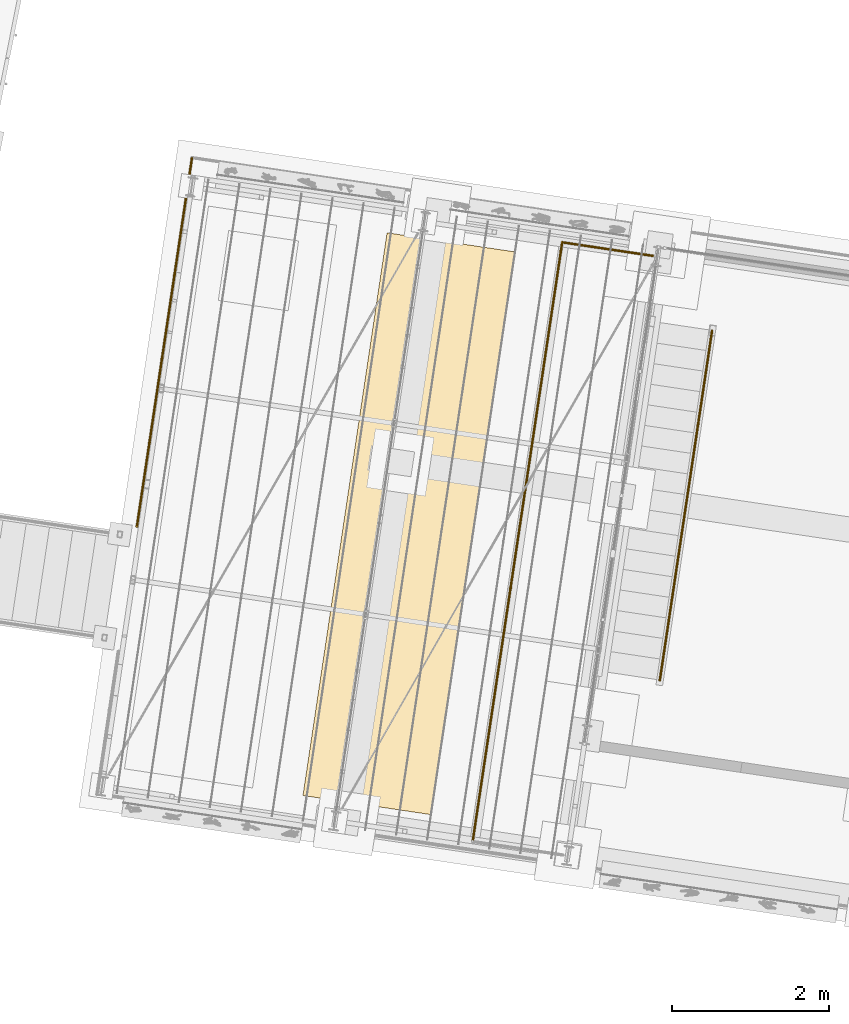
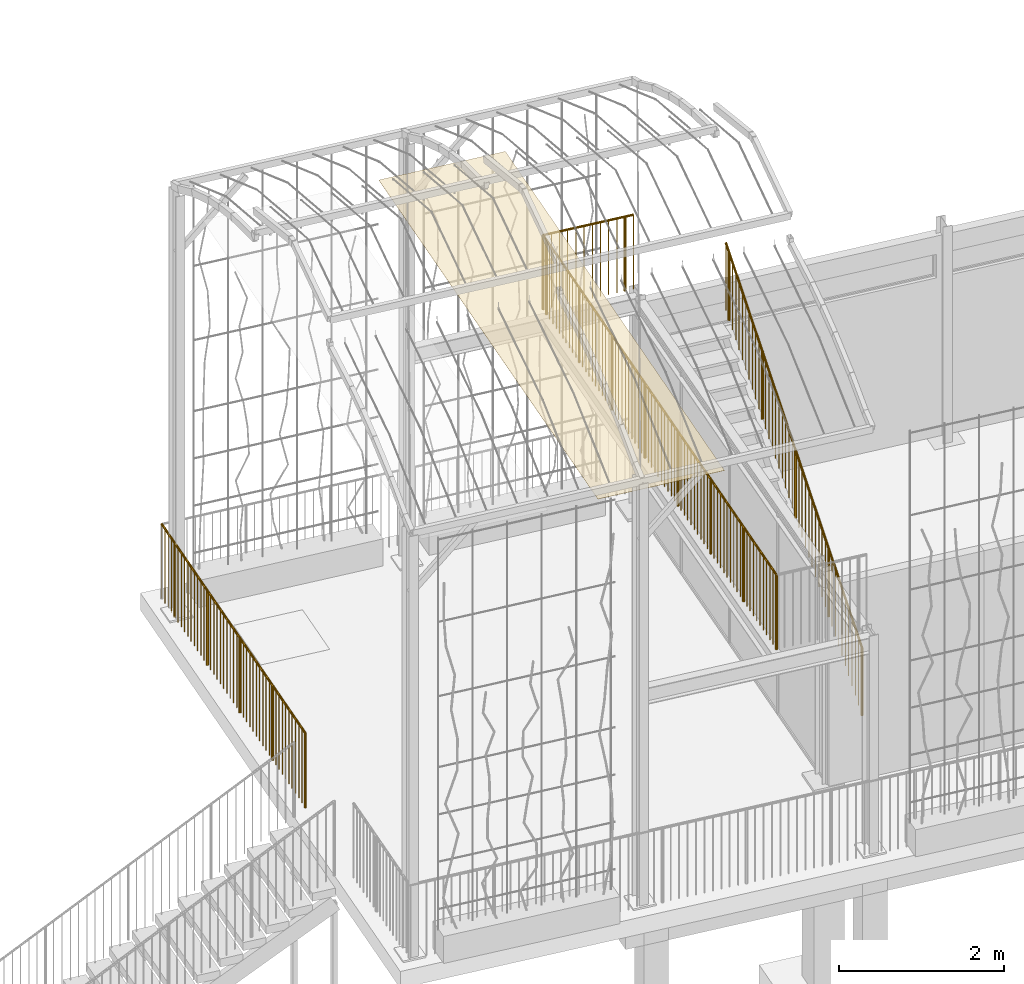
# One storey, part 139 of 143: 4 railings, 1 covering, 3 elements without a shape of their own.
"""IFC4 building model written with IfcOpenShell, lengths in metres."""

from ifc_helpers import new_model, si_unit, direction, frame, origin_with_axes, place, context, subcontext, project, spatial, polyline, circle, outline, extrude, material, element, aggregate, save


model = new_model("IFC4")

# Units and contexts
model_context = context("Model", 3, precision=1e-05, world=origin_with_axes(), true_north=direction((0.0, 1.0)))
body_context = subcontext(model_context, "Body", "Model", "MODEL_VIEW")
ifc_project = project(units=[si_unit("VOLUMEUNIT", "CUBIC_METRE"), si_unit("LENGTHUNIT", "METRE"), si_unit("AREAUNIT", "SQUARE_METRE")], contexts=[model_context])

# Site, building, storey
site_placement = place(None, origin_with_axes())
site = spatial("IfcSite", under=ifc_project, at=site_placement, Name="Lares · Rua das Mercês · artigo 4771")
building_placement = place(site_placement, frame((15.0, 9.7, 15.8), z_axis=(0.0, 0.0, 1.0), x_axis=(0.989015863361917, -0.147809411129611, 0.0)))
building = spatial("IfcBuilding", under=site, at=building_placement, Name="Casa Sobreposta")
storey_placement = place(building_placement, origin_with_axes())
storey = spatial("IfcBuildingStorey", under=building, at=storey_placement, Name="00 · Habitação e estacionamento", Elevation=15.8)

# Stair, railing
stair_placement = place(storey_placement, origin_with_axes())
stair = element("IfcStair", 1, at=stair_placement, inside=storey, Name="Escada sala", PredefinedType="STRAIGHT_RUN_STAIR")
ifc_material_1 = material(Name="Aço pintado / Stahl lackiert", Category="steel")
railing_1_placement = place(stair_placement, origin_with_axes())
railing_1 = element("IfcRailing", 2, at=railing_1_placement, material=ifc_material_1, Name="Corrimão sala", PredefinedType="GUARDRAIL", context=body_context, shape_type="SweptSolid", body=[
    extrude(circle(Radius=0.015), frame((0.83, 0.9475, 1.18), z_axis=(0.0, 0.827216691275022, 0.561883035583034), x_axis=(1.0, 0.0, 0.0)), (0.0, 0.0, 1.0), 5.44597328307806),
    extrude(circle(Radius=0.0175), frame((0.83, 0.9475, 0.18), z_axis=(0.0, 0.0, 1.0), x_axis=(1.0, 0.0, 0.0)), (0.0, 0.0, 1.0), 1.0),
    extrude(circle(Radius=0.006), frame((0.83, 1.05737804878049, 0.254634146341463), z_axis=(0.0, 0.0, 1.0), x_axis=(1.0, 0.0, 0.0)), (0.0, 0.0, 1.0), 1.0),
    extrude(circle(Radius=0.006), frame((0.83, 1.16725609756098, 0.329268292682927), z_axis=(0.0, 0.0, 1.0), x_axis=(1.0, 0.0, 0.0)), (0.0, 0.0, 1.0), 1.0),
    extrude(circle(Radius=0.006), frame((0.83, 1.27713414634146, 0.40390243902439), z_axis=(0.0, 0.0, 1.0), x_axis=(1.0, 0.0, 0.0)), (0.0, 0.0, 1.0), 1.0),
    extrude(circle(Radius=0.006), frame((0.83, 1.38701219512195, 0.478536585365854), z_axis=(0.0, 0.0, 1.0), x_axis=(1.0, 0.0, 0.0)), (0.0, 0.0, 1.0), 1.0),
    extrude(circle(Radius=0.006), frame((0.83, 1.49689024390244, 0.553170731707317), z_axis=(0.0, 0.0, 1.0), x_axis=(1.0, 0.0, 0.0)), (0.0, 0.0, 1.0), 1.0),
    extrude(circle(Radius=0.006), frame((0.83, 1.60676829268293, 0.62780487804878), z_axis=(0.0, 0.0, 1.0), x_axis=(1.0, 0.0, 0.0)), (0.0, 0.0, 1.0), 1.0),
    extrude(circle(Radius=0.006), frame((0.83, 1.71664634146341, 0.702439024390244), z_axis=(0.0, 0.0, 1.0), x_axis=(1.0, 0.0, 0.0)), (0.0, 0.0, 1.0), 1.0),
    extrude(circle(Radius=0.006), frame((0.83, 1.8265243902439, 0.777073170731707), z_axis=(0.0, 0.0, 1.0), x_axis=(1.0, 0.0, 0.0)), (0.0, 0.0, 1.0), 1.0),
    extrude(circle(Radius=0.006), frame((0.83, 1.93640243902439, 0.851707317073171), z_axis=(0.0, 0.0, 1.0), x_axis=(1.0, 0.0, 0.0)), (0.0, 0.0, 1.0), 1.0),
    extrude(circle(Radius=0.0175), frame((0.83, 2.04628048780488, 0.926341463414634), z_axis=(0.0, 0.0, 1.0), x_axis=(1.0, 0.0, 0.0)), (0.0, 0.0, 1.0), 1.0),
    extrude(circle(Radius=0.006), frame((0.83, 2.15615853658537, 1.0009756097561), z_axis=(0.0, 0.0, 1.0), x_axis=(1.0, 0.0, 0.0)), (0.0, 0.0, 1.0), 1.0),
    extrude(circle(Radius=0.006), frame((0.83, 2.26603658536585, 1.07560975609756), z_axis=(0.0, 0.0, 1.0), x_axis=(1.0, 0.0, 0.0)), (0.0, 0.0, 1.0), 1.0),
    extrude(circle(Radius=0.006), frame((0.83, 2.37591463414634, 1.15024390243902), z_axis=(0.0, 0.0, 1.0), x_axis=(1.0, 0.0, 0.0)), (0.0, 0.0, 1.0), 1.0),
    extrude(circle(Radius=0.006), frame((0.83, 2.48579268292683, 1.22487804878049), z_axis=(0.0, 0.0, 1.0), x_axis=(1.0, 0.0, 0.0)), (0.0, 0.0, 1.0), 1.0),
    extrude(circle(Radius=0.006), frame((0.83, 2.59567073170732, 1.29951219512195), z_axis=(0.0, 0.0, 1.0), x_axis=(1.0, 0.0, 0.0)), (0.0, 0.0, 1.0), 1.0),
    extrude(circle(Radius=0.006), frame((0.83, 2.7055487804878, 1.37414634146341), z_axis=(0.0, 0.0, 1.0), x_axis=(1.0, 0.0, 0.0)), (0.0, 0.0, 1.0), 1.0),
    extrude(circle(Radius=0.006), frame((0.83, 2.81542682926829, 1.44878048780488), z_axis=(0.0, 0.0, 1.0), x_axis=(1.0, 0.0, 0.0)), (0.0, 0.0, 1.0), 1.0),
    extrude(circle(Radius=0.006), frame((0.83, 2.92530487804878, 1.52341463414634), z_axis=(0.0, 0.0, 1.0), x_axis=(1.0, 0.0, 0.0)), (0.0, 0.0, 1.0), 1.0),
    extrude(circle(Radius=0.006), frame((0.83, 3.03518292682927, 1.5980487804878), z_axis=(0.0, 0.0, 1.0), x_axis=(1.0, 0.0, 0.0)), (0.0, 0.0, 1.0), 1.0),
    extrude(circle(Radius=0.0175), frame((0.83, 3.14506097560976, 1.67268292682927), z_axis=(0.0, 0.0, 1.0), x_axis=(1.0, 0.0, 0.0)), (0.0, 0.0, 1.0), 1.0),
    extrude(circle(Radius=0.006), frame((0.83, 3.25493902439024, 1.74731707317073), z_axis=(0.0, 0.0, 1.0), x_axis=(1.0, 0.0, 0.0)), (0.0, 0.0, 1.0), 1.0),
    extrude(circle(Radius=0.006), frame((0.83, 3.36481707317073, 1.8219512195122), z_axis=(0.0, 0.0, 1.0), x_axis=(1.0, 0.0, 0.0)), (0.0, 0.0, 1.0), 1.0),
    extrude(circle(Radius=0.006), frame((0.83, 3.47469512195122, 1.89658536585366), z_axis=(0.0, 0.0, 1.0), x_axis=(1.0, 0.0, 0.0)), (0.0, 0.0, 1.0), 1.0),
    extrude(circle(Radius=0.006), frame((0.83, 3.58457317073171, 1.97121951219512), z_axis=(0.0, 0.0, 1.0), x_axis=(1.0, 0.0, 0.0)), (0.0, 0.0, 1.0), 1.0),
    extrude(circle(Radius=0.006), frame((0.83, 3.6944512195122, 2.04585365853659), z_axis=(0.0, 0.0, 1.0), x_axis=(1.0, 0.0, 0.0)), (0.0, 0.0, 1.0), 1.0),
    extrude(circle(Radius=0.006), frame((0.83, 3.80432926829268, 2.12048780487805), z_axis=(0.0, 0.0, 1.0), x_axis=(1.0, 0.0, 0.0)), (0.0, 0.0, 1.0), 1.0),
    extrude(circle(Radius=0.006), frame((0.83, 3.91420731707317, 2.19512195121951), z_axis=(0.0, 0.0, 1.0), x_axis=(1.0, 0.0, 0.0)), (0.0, 0.0, 1.0), 1.0),
    extrude(circle(Radius=0.006), frame((0.83, 4.02408536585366, 2.26975609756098), z_axis=(0.0, 0.0, 1.0), x_axis=(1.0, 0.0, 0.0)), (0.0, 0.0, 1.0), 1.0),
    extrude(circle(Radius=0.006), frame((0.83, 4.13396341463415, 2.34439024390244), z_axis=(0.0, 0.0, 1.0), x_axis=(1.0, 0.0, 0.0)), (0.0, 0.0, 1.0), 1.0),
    extrude(circle(Radius=0.0175), frame((0.83, 4.24384146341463, 2.4190243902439), z_axis=(0.0, 0.0, 1.0), x_axis=(1.0, 0.0, 0.0)), (0.0, 0.0, 1.0), 1.0),
    extrude(circle(Radius=0.006), frame((0.83, 4.35371951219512, 2.49365853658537), z_axis=(0.0, 0.0, 1.0), x_axis=(1.0, 0.0, 0.0)), (0.0, 0.0, 1.0), 1.0),
    extrude(circle(Radius=0.006), frame((0.83, 4.46359756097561, 2.56829268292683), z_axis=(0.0, 0.0, 1.0), x_axis=(1.0, 0.0, 0.0)), (0.0, 0.0, 1.0), 1.0),
    extrude(circle(Radius=0.006), frame((0.83, 4.5734756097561, 2.64292682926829), z_axis=(0.0, 0.0, 1.0), x_axis=(1.0, 0.0, 0.0)), (0.0, 0.0, 1.0), 1.0),
    extrude(circle(Radius=0.006), frame((0.83, 4.68335365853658, 2.71756097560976), z_axis=(0.0, 0.0, 1.0), x_axis=(1.0, 0.0, 0.0)), (0.0, 0.0, 1.0), 1.0),
    extrude(circle(Radius=0.006), frame((0.83, 4.79323170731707, 2.79219512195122), z_axis=(0.0, 0.0, 1.0), x_axis=(1.0, 0.0, 0.0)), (0.0, 0.0, 1.0), 1.0),
    extrude(circle(Radius=0.006), frame((0.83, 4.90310975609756, 2.86682926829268), z_axis=(0.0, 0.0, 1.0), x_axis=(1.0, 0.0, 0.0)), (0.0, 0.0, 1.0), 1.0),
    extrude(circle(Radius=0.006), frame((0.83, 5.01298780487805, 2.94146341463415), z_axis=(0.0, 0.0, 1.0), x_axis=(1.0, 0.0, 0.0)), (0.0, 0.0, 1.0), 1.0),
    extrude(circle(Radius=0.006), frame((0.83, 5.12286585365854, 3.01609756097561), z_axis=(0.0, 0.0, 1.0), x_axis=(1.0, 0.0, 0.0)), (0.0, 0.0, 1.0), 1.0),
    extrude(circle(Radius=0.006), frame((0.83, 5.23274390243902, 3.09073170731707), z_axis=(0.0, 0.0, 1.0), x_axis=(1.0, 0.0, 0.0)), (0.0, 0.0, 1.0), 1.0),
    extrude(circle(Radius=0.0175), frame((0.83, 5.34262195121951, 3.16536585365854), z_axis=(0.0, 0.0, 1.0), x_axis=(1.0, 0.0, 0.0)), (0.0, 0.0, 1.0), 1.0),
    extrude(circle(Radius=0.006), frame((0.83, 5.4525, 3.24), z_axis=(0.0, 0.0, 1.0), x_axis=(1.0, 0.0, 0.0)), (0.0, 0.0, 1.0), 1.0),
])
aggregate(stair, [railing_1])

# Assembly, railing
assembly_1_placement = place(storey_placement, origin_with_axes())
assembly_1 = element("IfcElementAssembly", 3, at=assembly_1_placement, inside=storey, Name="Pódio · terraço, casa térrea e cisterna", ObjectType="CISTERN_PODIUM", PredefinedType="USERDEFINED")
railing_2_placement = place(assembly_1_placement, origin_with_axes())
railing_2 = element("IfcRailing", 4, at=railing_2_placement, material=ifc_material_1, Name="Pódio · guarda poente norte", PredefinedType="GUARDRAIL", context=body_context, shape_type="SweptSolid", body=[
    extrude(circle(Radius=0.015), frame((-6.05, 1.9, 1.06), z_axis=(0.0, 1.0, 0.0), x_axis=(1.0, 0.0, 0.0)), (0.0, 0.0, 1.0), 4.75),
    extrude(circle(Radius=0.0175), frame((-6.05, 1.9, -0.04), z_axis=(0.0, 0.0, 1.0), x_axis=(1.0, 0.0, 0.0)), (0.0, 0.0, 1.0), 1.1),
    extrude(circle(Radius=0.006), frame((-6.05, 2.00795454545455, -0.04), z_axis=(0.0, 0.0, 1.0), x_axis=(1.0, 0.0, 0.0)), (0.0, 0.0, 1.0), 1.1),
    extrude(circle(Radius=0.006), frame((-6.05, 2.11590909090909, -0.04), z_axis=(0.0, 0.0, 1.0), x_axis=(1.0, 0.0, 0.0)), (0.0, 0.0, 1.0), 1.1),
    extrude(circle(Radius=0.006), frame((-6.05, 2.22386363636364, -0.04), z_axis=(0.0, 0.0, 1.0), x_axis=(1.0, 0.0, 0.0)), (0.0, 0.0, 1.0), 1.1),
    extrude(circle(Radius=0.006), frame((-6.05, 2.33181818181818, -0.04), z_axis=(0.0, 0.0, 1.0), x_axis=(1.0, 0.0, 0.0)), (0.0, 0.0, 1.0), 1.1),
    extrude(circle(Radius=0.006), frame((-6.05, 2.43977272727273, -0.04), z_axis=(0.0, 0.0, 1.0), x_axis=(1.0, 0.0, 0.0)), (0.0, 0.0, 1.0), 1.1),
    extrude(circle(Radius=0.006), frame((-6.05, 2.54772727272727, -0.04), z_axis=(0.0, 0.0, 1.0), x_axis=(1.0, 0.0, 0.0)), (0.0, 0.0, 1.0), 1.1),
    extrude(circle(Radius=0.006), frame((-6.05, 2.65568181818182, -0.04), z_axis=(0.0, 0.0, 1.0), x_axis=(1.0, 0.0, 0.0)), (0.0, 0.0, 1.0), 1.1),
    extrude(circle(Radius=0.006), frame((-6.05, 2.76363636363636, -0.04), z_axis=(0.0, 0.0, 1.0), x_axis=(1.0, 0.0, 0.0)), (0.0, 0.0, 1.0), 1.1),
    extrude(circle(Radius=0.006), frame((-6.05, 2.87159090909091, -0.04), z_axis=(0.0, 0.0, 1.0), x_axis=(1.0, 0.0, 0.0)), (0.0, 0.0, 1.0), 1.1),
    extrude(circle(Radius=0.0175), frame((-6.05, 2.97954545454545, -0.04), z_axis=(0.0, 0.0, 1.0), x_axis=(1.0, 0.0, 0.0)), (0.0, 0.0, 1.0), 1.1),
    extrude(circle(Radius=0.006), frame((-6.05, 3.0875, -0.04), z_axis=(0.0, 0.0, 1.0), x_axis=(1.0, 0.0, 0.0)), (0.0, 0.0, 1.0), 1.1),
    extrude(circle(Radius=0.006), frame((-6.05, 3.19545454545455, -0.04), z_axis=(0.0, 0.0, 1.0), x_axis=(1.0, 0.0, 0.0)), (0.0, 0.0, 1.0), 1.1),
    extrude(circle(Radius=0.006), frame((-6.05, 3.30340909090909, -0.04), z_axis=(0.0, 0.0, 1.0), x_axis=(1.0, 0.0, 0.0)), (0.0, 0.0, 1.0), 1.1),
    extrude(circle(Radius=0.006), frame((-6.05, 3.41136363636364, -0.04), z_axis=(0.0, 0.0, 1.0), x_axis=(1.0, 0.0, 0.0)), (0.0, 0.0, 1.0), 1.1),
    extrude(circle(Radius=0.006), frame((-6.05, 3.51931818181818, -0.04), z_axis=(0.0, 0.0, 1.0), x_axis=(1.0, 0.0, 0.0)), (0.0, 0.0, 1.0), 1.1),
    extrude(circle(Radius=0.006), frame((-6.05, 3.62727272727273, -0.04), z_axis=(0.0, 0.0, 1.0), x_axis=(1.0, 0.0, 0.0)), (0.0, 0.0, 1.0), 1.1),
    extrude(circle(Radius=0.006), frame((-6.05, 3.73522727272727, -0.04), z_axis=(0.0, 0.0, 1.0), x_axis=(1.0, 0.0, 0.0)), (0.0, 0.0, 1.0), 1.1),
    extrude(circle(Radius=0.006), frame((-6.05, 3.84318181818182, -0.04), z_axis=(0.0, 0.0, 1.0), x_axis=(1.0, 0.0, 0.0)), (0.0, 0.0, 1.0), 1.1),
    extrude(circle(Radius=0.006), frame((-6.05, 3.95113636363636, -0.04), z_axis=(0.0, 0.0, 1.0), x_axis=(1.0, 0.0, 0.0)), (0.0, 0.0, 1.0), 1.1),
    extrude(circle(Radius=0.0175), frame((-6.05, 4.05909090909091, -0.04), z_axis=(0.0, 0.0, 1.0), x_axis=(1.0, 0.0, 0.0)), (0.0, 0.0, 1.0), 1.1),
    extrude(circle(Radius=0.006), frame((-6.05, 4.16704545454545, -0.04), z_axis=(0.0, 0.0, 1.0), x_axis=(1.0, 0.0, 0.0)), (0.0, 0.0, 1.0), 1.1),
    extrude(circle(Radius=0.006), frame((-6.05, 4.275, -0.04), z_axis=(0.0, 0.0, 1.0), x_axis=(1.0, 0.0, 0.0)), (0.0, 0.0, 1.0), 1.1),
    extrude(circle(Radius=0.006), frame((-6.05, 4.38295454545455, -0.04), z_axis=(0.0, 0.0, 1.0), x_axis=(1.0, 0.0, 0.0)), (0.0, 0.0, 1.0), 1.1),
    extrude(circle(Radius=0.006), frame((-6.05, 4.49090909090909, -0.04), z_axis=(0.0, 0.0, 1.0), x_axis=(1.0, 0.0, 0.0)), (0.0, 0.0, 1.0), 1.1),
    extrude(circle(Radius=0.006), frame((-6.05, 4.59886363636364, -0.04), z_axis=(0.0, 0.0, 1.0), x_axis=(1.0, 0.0, 0.0)), (0.0, 0.0, 1.0), 1.1),
    extrude(circle(Radius=0.006), frame((-6.05, 4.70681818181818, -0.04), z_axis=(0.0, 0.0, 1.0), x_axis=(1.0, 0.0, 0.0)), (0.0, 0.0, 1.0), 1.1),
    extrude(circle(Radius=0.006), frame((-6.05, 4.81477272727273, -0.04), z_axis=(0.0, 0.0, 1.0), x_axis=(1.0, 0.0, 0.0)), (0.0, 0.0, 1.0), 1.1),
    extrude(circle(Radius=0.006), frame((-6.05, 4.92272727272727, -0.04), z_axis=(0.0, 0.0, 1.0), x_axis=(1.0, 0.0, 0.0)), (0.0, 0.0, 1.0), 1.1),
    extrude(circle(Radius=0.006), frame((-6.05, 5.03068181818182, -0.04), z_axis=(0.0, 0.0, 1.0), x_axis=(1.0, 0.0, 0.0)), (0.0, 0.0, 1.0), 1.1),
    extrude(circle(Radius=0.0175), frame((-6.05, 5.13863636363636, -0.04), z_axis=(0.0, 0.0, 1.0), x_axis=(1.0, 0.0, 0.0)), (0.0, 0.0, 1.0), 1.1),
    extrude(circle(Radius=0.006), frame((-6.05, 5.24659090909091, -0.04), z_axis=(0.0, 0.0, 1.0), x_axis=(1.0, 0.0, 0.0)), (0.0, 0.0, 1.0), 1.1),
    extrude(circle(Radius=0.006), frame((-6.05, 5.35454545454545, -0.04), z_axis=(0.0, 0.0, 1.0), x_axis=(1.0, 0.0, 0.0)), (0.0, 0.0, 1.0), 1.1),
    extrude(circle(Radius=0.006), frame((-6.05, 5.4625, -0.04), z_axis=(0.0, 0.0, 1.0), x_axis=(1.0, 0.0, 0.0)), (0.0, 0.0, 1.0), 1.1),
    extrude(circle(Radius=0.006), frame((-6.05, 5.57045454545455, -0.04), z_axis=(0.0, 0.0, 1.0), x_axis=(1.0, 0.0, 0.0)), (0.0, 0.0, 1.0), 1.1),
    extrude(circle(Radius=0.006), frame((-6.05, 5.67840909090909, -0.04), z_axis=(0.0, 0.0, 1.0), x_axis=(1.0, 0.0, 0.0)), (0.0, 0.0, 1.0), 1.1),
    extrude(circle(Radius=0.006), frame((-6.05, 5.78636363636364, -0.04), z_axis=(0.0, 0.0, 1.0), x_axis=(1.0, 0.0, 0.0)), (0.0, 0.0, 1.0), 1.1),
    extrude(circle(Radius=0.006), frame((-6.05, 5.89431818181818, -0.04), z_axis=(0.0, 0.0, 1.0), x_axis=(1.0, 0.0, 0.0)), (0.0, 0.0, 1.0), 1.1),
    extrude(circle(Radius=0.006), frame((-6.05, 6.00227272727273, -0.04), z_axis=(0.0, 0.0, 1.0), x_axis=(1.0, 0.0, 0.0)), (0.0, 0.0, 1.0), 1.1),
    extrude(circle(Radius=0.006), frame((-6.05, 6.11022727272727, -0.04), z_axis=(0.0, 0.0, 1.0), x_axis=(1.0, 0.0, 0.0)), (0.0, 0.0, 1.0), 1.1),
    extrude(circle(Radius=0.0175), frame((-6.05, 6.21818181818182, -0.04), z_axis=(0.0, 0.0, 1.0), x_axis=(1.0, 0.0, 0.0)), (0.0, 0.0, 1.0), 1.1),
    extrude(circle(Radius=0.006), frame((-6.05, 6.32613636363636, -0.04), z_axis=(0.0, 0.0, 1.0), x_axis=(1.0, 0.0, 0.0)), (0.0, 0.0, 1.0), 1.1),
    extrude(circle(Radius=0.006), frame((-6.05, 6.43409090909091, -0.04), z_axis=(0.0, 0.0, 1.0), x_axis=(1.0, 0.0, 0.0)), (0.0, 0.0, 1.0), 1.1),
    extrude(circle(Radius=0.006), frame((-6.05, 6.54204545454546, -0.04), z_axis=(0.0, 0.0, 1.0), x_axis=(1.0, 0.0, 0.0)), (0.0, 0.0, 1.0), 1.1),
    extrude(circle(Radius=0.006), frame((-6.05, 6.65, -0.04), z_axis=(0.0, 0.0, 1.0), x_axis=(1.0, 0.0, 0.0)), (0.0, 0.0, 1.0), 1.1),
])
aggregate(assembly_1, [railing_2])

# Assembly, railings, covering
assembly_2_placement = place(storey_placement, origin_with_axes())
assembly_2 = element("IfcElementAssembly", 5, at=assembly_2_placement, inside=storey, Name="Pérgola · prolongamento da estufa 6 m", ObjectType="PERGOLA_GREENHOUSE_EXTENSION", PredefinedType="USERDEFINED")
railing_3_placement = place(assembly_2_placement, origin_with_axes())
railing_3 = element("IfcRailing", 6, at=railing_3_placement, material=ifc_material_1, Name="Varanda · guarda", PredefinedType="GUARDRAIL", context=body_context, shape_type="SweptSolid", body=[
    extrude(circle(Radius=0.015), frame((-1.225, -1.44, 4.34), z_axis=(0.0, 1.0, 0.0), x_axis=(1.0, 0.0, 0.0)), (0.0, 0.0, 1.0), 7.72),
    extrude(circle(Radius=0.0175), frame((-1.225, -1.44, 3.24), z_axis=(0.0, 0.0, 1.0), x_axis=(1.0, 0.0, 0.0)), (0.0, 0.0, 1.0), 1.1),
    extrude(circle(Radius=0.006), frame((-1.225, -1.3312676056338, 3.24), z_axis=(0.0, 0.0, 1.0), x_axis=(1.0, 0.0, 0.0)), (0.0, 0.0, 1.0), 1.1),
    extrude(circle(Radius=0.006), frame((-1.225, -1.22253521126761, 3.24), z_axis=(0.0, 0.0, 1.0), x_axis=(1.0, 0.0, 0.0)), (0.0, 0.0, 1.0), 1.1),
    extrude(circle(Radius=0.006), frame((-1.225, -1.11380281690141, 3.24), z_axis=(0.0, 0.0, 1.0), x_axis=(1.0, 0.0, 0.0)), (0.0, 0.0, 1.0), 1.1),
    extrude(circle(Radius=0.006), frame((-1.225, -1.00507042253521, 3.24), z_axis=(0.0, 0.0, 1.0), x_axis=(1.0, 0.0, 0.0)), (0.0, 0.0, 1.0), 1.1),
    extrude(circle(Radius=0.006), frame((-1.225, -0.896338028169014, 3.24), z_axis=(0.0, 0.0, 1.0), x_axis=(1.0, 0.0, 0.0)), (0.0, 0.0, 1.0), 1.1),
    extrude(circle(Radius=0.006), frame((-1.225, -0.787605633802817, 3.24), z_axis=(0.0, 0.0, 1.0), x_axis=(1.0, 0.0, 0.0)), (0.0, 0.0, 1.0), 1.1),
    extrude(circle(Radius=0.006), frame((-1.225, -0.67887323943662, 3.24), z_axis=(0.0, 0.0, 1.0), x_axis=(1.0, 0.0, 0.0)), (0.0, 0.0, 1.0), 1.1),
    extrude(circle(Radius=0.006), frame((-1.225, -0.570140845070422, 3.24), z_axis=(0.0, 0.0, 1.0), x_axis=(1.0, 0.0, 0.0)), (0.0, 0.0, 1.0), 1.1),
    extrude(circle(Radius=0.006), frame((-1.225, -0.461408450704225, 3.24), z_axis=(0.0, 0.0, 1.0), x_axis=(1.0, 0.0, 0.0)), (0.0, 0.0, 1.0), 1.1),
    extrude(circle(Radius=0.0175), frame((-1.225, -0.352676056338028, 3.24), z_axis=(0.0, 0.0, 1.0), x_axis=(1.0, 0.0, 0.0)), (0.0, 0.0, 1.0), 1.1),
    extrude(circle(Radius=0.006), frame((-1.225, -0.243943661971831, 3.24), z_axis=(0.0, 0.0, 1.0), x_axis=(1.0, 0.0, 0.0)), (0.0, 0.0, 1.0), 1.1),
    extrude(circle(Radius=0.006), frame((-1.225, -0.135211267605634, 3.24), z_axis=(0.0, 0.0, 1.0), x_axis=(1.0, 0.0, 0.0)), (0.0, 0.0, 1.0), 1.1),
    extrude(circle(Radius=0.006), frame((-1.225, -0.0264788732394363, 3.24), z_axis=(0.0, 0.0, 1.0), x_axis=(1.0, 0.0, 0.0)), (0.0, 0.0, 1.0), 1.1),
    extrude(circle(Radius=0.006), frame((-1.225, 0.0822535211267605, 3.24), z_axis=(0.0, 0.0, 1.0), x_axis=(1.0, 0.0, 0.0)), (0.0, 0.0, 1.0), 1.1),
    extrude(circle(Radius=0.006), frame((-1.225, 0.190985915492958, 3.24), z_axis=(0.0, 0.0, 1.0), x_axis=(1.0, 0.0, 0.0)), (0.0, 0.0, 1.0), 1.1),
    extrude(circle(Radius=0.006), frame((-1.225, 0.299718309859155, 3.24), z_axis=(0.0, 0.0, 1.0), x_axis=(1.0, 0.0, 0.0)), (0.0, 0.0, 1.0), 1.1),
    extrude(circle(Radius=0.006), frame((-1.225, 0.408450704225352, 3.24), z_axis=(0.0, 0.0, 1.0), x_axis=(1.0, 0.0, 0.0)), (0.0, 0.0, 1.0), 1.1),
    extrude(circle(Radius=0.006), frame((-1.225, 0.51718309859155, 3.24), z_axis=(0.0, 0.0, 1.0), x_axis=(1.0, 0.0, 0.0)), (0.0, 0.0, 1.0), 1.1),
    extrude(circle(Radius=0.006), frame((-1.225, 0.625915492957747, 3.24), z_axis=(0.0, 0.0, 1.0), x_axis=(1.0, 0.0, 0.0)), (0.0, 0.0, 1.0), 1.1),
    extrude(circle(Radius=0.0175), frame((-1.225, 0.734647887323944, 3.24), z_axis=(0.0, 0.0, 1.0), x_axis=(1.0, 0.0, 0.0)), (0.0, 0.0, 1.0), 1.1),
    extrude(circle(Radius=0.006), frame((-1.225, 0.843380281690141, 3.24), z_axis=(0.0, 0.0, 1.0), x_axis=(1.0, 0.0, 0.0)), (0.0, 0.0, 1.0), 1.1),
    extrude(circle(Radius=0.006), frame((-1.225, 0.952112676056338, 3.24), z_axis=(0.0, 0.0, 1.0), x_axis=(1.0, 0.0, 0.0)), (0.0, 0.0, 1.0), 1.1),
    extrude(circle(Radius=0.006), frame((-1.225, 1.06084507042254, 3.24), z_axis=(0.0, 0.0, 1.0), x_axis=(1.0, 0.0, 0.0)), (0.0, 0.0, 1.0), 1.1),
    extrude(circle(Radius=0.006), frame((-1.225, 1.16957746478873, 3.24), z_axis=(0.0, 0.0, 1.0), x_axis=(1.0, 0.0, 0.0)), (0.0, 0.0, 1.0), 1.1),
    extrude(circle(Radius=0.006), frame((-1.225, 1.27830985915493, 3.24), z_axis=(0.0, 0.0, 1.0), x_axis=(1.0, 0.0, 0.0)), (0.0, 0.0, 1.0), 1.1),
    extrude(circle(Radius=0.006), frame((-1.225, 1.38704225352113, 3.24), z_axis=(0.0, 0.0, 1.0), x_axis=(1.0, 0.0, 0.0)), (0.0, 0.0, 1.0), 1.1),
    extrude(circle(Radius=0.006), frame((-1.225, 1.49577464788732, 3.24), z_axis=(0.0, 0.0, 1.0), x_axis=(1.0, 0.0, 0.0)), (0.0, 0.0, 1.0), 1.1),
    extrude(circle(Radius=0.006), frame((-1.225, 1.60450704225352, 3.24), z_axis=(0.0, 0.0, 1.0), x_axis=(1.0, 0.0, 0.0)), (0.0, 0.0, 1.0), 1.1),
    extrude(circle(Radius=0.006), frame((-1.225, 1.71323943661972, 3.24), z_axis=(0.0, 0.0, 1.0), x_axis=(1.0, 0.0, 0.0)), (0.0, 0.0, 1.0), 1.1),
    extrude(circle(Radius=0.0175), frame((-1.225, 1.82197183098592, 3.24), z_axis=(0.0, 0.0, 1.0), x_axis=(1.0, 0.0, 0.0)), (0.0, 0.0, 1.0), 1.1),
    extrude(circle(Radius=0.006), frame((-1.225, 1.93070422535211, 3.24), z_axis=(0.0, 0.0, 1.0), x_axis=(1.0, 0.0, 0.0)), (0.0, 0.0, 1.0), 1.1),
    extrude(circle(Radius=0.006), frame((-1.225, 2.03943661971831, 3.24), z_axis=(0.0, 0.0, 1.0), x_axis=(1.0, 0.0, 0.0)), (0.0, 0.0, 1.0), 1.1),
    extrude(circle(Radius=0.006), frame((-1.225, 2.14816901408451, 3.24), z_axis=(0.0, 0.0, 1.0), x_axis=(1.0, 0.0, 0.0)), (0.0, 0.0, 1.0), 1.1),
    extrude(circle(Radius=0.006), frame((-1.225, 2.2569014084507, 3.24), z_axis=(0.0, 0.0, 1.0), x_axis=(1.0, 0.0, 0.0)), (0.0, 0.0, 1.0), 1.1),
    extrude(circle(Radius=0.006), frame((-1.225, 2.3656338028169, 3.24), z_axis=(0.0, 0.0, 1.0), x_axis=(1.0, 0.0, 0.0)), (0.0, 0.0, 1.0), 1.1),
    extrude(circle(Radius=0.006), frame((-1.225, 2.4743661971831, 3.24), z_axis=(0.0, 0.0, 1.0), x_axis=(1.0, 0.0, 0.0)), (0.0, 0.0, 1.0), 1.1),
    extrude(circle(Radius=0.006), frame((-1.225, 2.5830985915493, 3.24), z_axis=(0.0, 0.0, 1.0), x_axis=(1.0, 0.0, 0.0)), (0.0, 0.0, 1.0), 1.1),
    extrude(circle(Radius=0.006), frame((-1.225, 2.69183098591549, 3.24), z_axis=(0.0, 0.0, 1.0), x_axis=(1.0, 0.0, 0.0)), (0.0, 0.0, 1.0), 1.1),
    extrude(circle(Radius=0.006), frame((-1.225, 2.80056338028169, 3.24), z_axis=(0.0, 0.0, 1.0), x_axis=(1.0, 0.0, 0.0)), (0.0, 0.0, 1.0), 1.1),
    extrude(circle(Radius=0.0175), frame((-1.225, 2.90929577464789, 3.24), z_axis=(0.0, 0.0, 1.0), x_axis=(1.0, 0.0, 0.0)), (0.0, 0.0, 1.0), 1.1),
    extrude(circle(Radius=0.006), frame((-1.225, 3.01802816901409, 3.24), z_axis=(0.0, 0.0, 1.0), x_axis=(1.0, 0.0, 0.0)), (0.0, 0.0, 1.0), 1.1),
    extrude(circle(Radius=0.006), frame((-1.225, 3.12676056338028, 3.24), z_axis=(0.0, 0.0, 1.0), x_axis=(1.0, 0.0, 0.0)), (0.0, 0.0, 1.0), 1.1),
    extrude(circle(Radius=0.006), frame((-1.225, 3.23549295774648, 3.24), z_axis=(0.0, 0.0, 1.0), x_axis=(1.0, 0.0, 0.0)), (0.0, 0.0, 1.0), 1.1),
    extrude(circle(Radius=0.006), frame((-1.225, 3.34422535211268, 3.24), z_axis=(0.0, 0.0, 1.0), x_axis=(1.0, 0.0, 0.0)), (0.0, 0.0, 1.0), 1.1),
    extrude(circle(Radius=0.006), frame((-1.225, 3.45295774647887, 3.24), z_axis=(0.0, 0.0, 1.0), x_axis=(1.0, 0.0, 0.0)), (0.0, 0.0, 1.0), 1.1),
    extrude(circle(Radius=0.006), frame((-1.225, 3.56169014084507, 3.24), z_axis=(0.0, 0.0, 1.0), x_axis=(1.0, 0.0, 0.0)), (0.0, 0.0, 1.0), 1.1),
    extrude(circle(Radius=0.006), frame((-1.225, 3.67042253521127, 3.24), z_axis=(0.0, 0.0, 1.0), x_axis=(1.0, 0.0, 0.0)), (0.0, 0.0, 1.0), 1.1),
    extrude(circle(Radius=0.006), frame((-1.225, 3.77915492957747, 3.24), z_axis=(0.0, 0.0, 1.0), x_axis=(1.0, 0.0, 0.0)), (0.0, 0.0, 1.0), 1.1),
    extrude(circle(Radius=0.006), frame((-1.225, 3.88788732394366, 3.24), z_axis=(0.0, 0.0, 1.0), x_axis=(1.0, 0.0, 0.0)), (0.0, 0.0, 1.0), 1.1),
    extrude(circle(Radius=0.0175), frame((-1.225, 3.99661971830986, 3.24), z_axis=(0.0, 0.0, 1.0), x_axis=(1.0, 0.0, 0.0)), (0.0, 0.0, 1.0), 1.1),
    extrude(circle(Radius=0.006), frame((-1.225, 4.10535211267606, 3.24), z_axis=(0.0, 0.0, 1.0), x_axis=(1.0, 0.0, 0.0)), (0.0, 0.0, 1.0), 1.1),
    extrude(circle(Radius=0.006), frame((-1.225, 4.21408450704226, 3.24), z_axis=(0.0, 0.0, 1.0), x_axis=(1.0, 0.0, 0.0)), (0.0, 0.0, 1.0), 1.1),
    extrude(circle(Radius=0.006), frame((-1.225, 4.32281690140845, 3.24), z_axis=(0.0, 0.0, 1.0), x_axis=(1.0, 0.0, 0.0)), (0.0, 0.0, 1.0), 1.1),
    extrude(circle(Radius=0.006), frame((-1.225, 4.43154929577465, 3.24), z_axis=(0.0, 0.0, 1.0), x_axis=(1.0, 0.0, 0.0)), (0.0, 0.0, 1.0), 1.1),
    extrude(circle(Radius=0.006), frame((-1.225, 4.54028169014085, 3.24), z_axis=(0.0, 0.0, 1.0), x_axis=(1.0, 0.0, 0.0)), (0.0, 0.0, 1.0), 1.1),
    extrude(circle(Radius=0.006), frame((-1.225, 4.64901408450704, 3.24), z_axis=(0.0, 0.0, 1.0), x_axis=(1.0, 0.0, 0.0)), (0.0, 0.0, 1.0), 1.1),
    extrude(circle(Radius=0.006), frame((-1.225, 4.75774647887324, 3.24), z_axis=(0.0, 0.0, 1.0), x_axis=(1.0, 0.0, 0.0)), (0.0, 0.0, 1.0), 1.1),
    extrude(circle(Radius=0.006), frame((-1.225, 4.86647887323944, 3.24), z_axis=(0.0, 0.0, 1.0), x_axis=(1.0, 0.0, 0.0)), (0.0, 0.0, 1.0), 1.1),
    extrude(circle(Radius=0.006), frame((-1.225, 4.97521126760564, 3.24), z_axis=(0.0, 0.0, 1.0), x_axis=(1.0, 0.0, 0.0)), (0.0, 0.0, 1.0), 1.1),
    extrude(circle(Radius=0.0175), frame((-1.225, 5.08394366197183, 3.24), z_axis=(0.0, 0.0, 1.0), x_axis=(1.0, 0.0, 0.0)), (0.0, 0.0, 1.0), 1.1),
    extrude(circle(Radius=0.006), frame((-1.225, 5.19267605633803, 3.24), z_axis=(0.0, 0.0, 1.0), x_axis=(1.0, 0.0, 0.0)), (0.0, 0.0, 1.0), 1.1),
    extrude(circle(Radius=0.006), frame((-1.225, 5.30140845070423, 3.24), z_axis=(0.0, 0.0, 1.0), x_axis=(1.0, 0.0, 0.0)), (0.0, 0.0, 1.0), 1.1),
    extrude(circle(Radius=0.006), frame((-1.225, 5.41014084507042, 3.24), z_axis=(0.0, 0.0, 1.0), x_axis=(1.0, 0.0, 0.0)), (0.0, 0.0, 1.0), 1.1),
    extrude(circle(Radius=0.006), frame((-1.225, 5.51887323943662, 3.24), z_axis=(0.0, 0.0, 1.0), x_axis=(1.0, 0.0, 0.0)), (0.0, 0.0, 1.0), 1.1),
    extrude(circle(Radius=0.006), frame((-1.225, 5.62760563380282, 3.24), z_axis=(0.0, 0.0, 1.0), x_axis=(1.0, 0.0, 0.0)), (0.0, 0.0, 1.0), 1.1),
    extrude(circle(Radius=0.006), frame((-1.225, 5.73633802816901, 3.24), z_axis=(0.0, 0.0, 1.0), x_axis=(1.0, 0.0, 0.0)), (0.0, 0.0, 1.0), 1.1),
    extrude(circle(Radius=0.006), frame((-1.225, 5.84507042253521, 3.24), z_axis=(0.0, 0.0, 1.0), x_axis=(1.0, 0.0, 0.0)), (0.0, 0.0, 1.0), 1.1),
    extrude(circle(Radius=0.006), frame((-1.225, 5.95380281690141, 3.24), z_axis=(0.0, 0.0, 1.0), x_axis=(1.0, 0.0, 0.0)), (0.0, 0.0, 1.0), 1.1),
    extrude(circle(Radius=0.006), frame((-1.225, 6.06253521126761, 3.24), z_axis=(0.0, 0.0, 1.0), x_axis=(1.0, 0.0, 0.0)), (0.0, 0.0, 1.0), 1.1),
    extrude(circle(Radius=0.0175), frame((-1.225, 6.1712676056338, 3.24), z_axis=(0.0, 0.0, 1.0), x_axis=(1.0, 0.0, 0.0)), (0.0, 0.0, 1.0), 1.1),
    extrude(circle(Radius=0.006), frame((-1.225, 6.28, 3.24), z_axis=(0.0, 0.0, 1.0), x_axis=(1.0, 0.0, 0.0)), (0.0, 0.0, 1.0), 1.1),
])
railing_4_placement = place(assembly_2_placement, origin_with_axes())
railing_4 = element("IfcRailing", 7, at=railing_4_placement, material=ifc_material_1, Name="Varanda · guarda", PredefinedType="GUARDRAIL", context=body_context, shape_type="SweptSolid", body=[
    extrude(circle(Radius=0.015), frame((-1.225, 6.28, 4.34), z_axis=(1.0, 0.0, 0.0), x_axis=(0.0, -1.0, 0.0)), (0.0, 0.0, 1.0), 1.175),
    extrude(circle(Radius=0.0175), frame((-1.225, 6.28, 3.24), z_axis=(0.0, 0.0, 1.0), x_axis=(1.0, 0.0, 0.0)), (0.0, 0.0, 1.0), 1.1),
    extrude(circle(Radius=0.006), frame((-1.11818181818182, 6.28, 3.24), z_axis=(0.0, 0.0, 1.0), x_axis=(1.0, 0.0, 0.0)), (0.0, 0.0, 1.0), 1.1),
    extrude(circle(Radius=0.006), frame((-1.01136363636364, 6.28, 3.24), z_axis=(0.0, 0.0, 1.0), x_axis=(1.0, 0.0, 0.0)), (0.0, 0.0, 1.0), 1.1),
    extrude(circle(Radius=0.006), frame((-0.904545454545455, 6.28, 3.24), z_axis=(0.0, 0.0, 1.0), x_axis=(1.0, 0.0, 0.0)), (0.0, 0.0, 1.0), 1.1),
    extrude(circle(Radius=0.006), frame((-0.797727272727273, 6.28, 3.24), z_axis=(0.0, 0.0, 1.0), x_axis=(1.0, 0.0, 0.0)), (0.0, 0.0, 1.0), 1.1),
    extrude(circle(Radius=0.006), frame((-0.690909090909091, 6.28, 3.24), z_axis=(0.0, 0.0, 1.0), x_axis=(1.0, 0.0, 0.0)), (0.0, 0.0, 1.0), 1.1),
    extrude(circle(Radius=0.006), frame((-0.584090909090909, 6.28, 3.24), z_axis=(0.0, 0.0, 1.0), x_axis=(1.0, 0.0, 0.0)), (0.0, 0.0, 1.0), 1.1),
    extrude(circle(Radius=0.006), frame((-0.477272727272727, 6.28, 3.24), z_axis=(0.0, 0.0, 1.0), x_axis=(1.0, 0.0, 0.0)), (0.0, 0.0, 1.0), 1.1),
    extrude(circle(Radius=0.006), frame((-0.370454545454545, 6.28, 3.24), z_axis=(0.0, 0.0, 1.0), x_axis=(1.0, 0.0, 0.0)), (0.0, 0.0, 1.0), 1.1),
    extrude(circle(Radius=0.006), frame((-0.263636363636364, 6.28, 3.24), z_axis=(0.0, 0.0, 1.0), x_axis=(1.0, 0.0, 0.0)), (0.0, 0.0, 1.0), 1.1),
    extrude(circle(Radius=0.0175), frame((-0.156818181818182, 6.28, 3.24), z_axis=(0.0, 0.0, 1.0), x_axis=(1.0, 0.0, 0.0)), (0.0, 0.0, 1.0), 1.1),
    extrude(circle(Radius=0.006), frame((-0.05, 6.28, 3.24), z_axis=(0.0, 0.0, 1.0), x_axis=(1.0, 0.0, 0.0)), (0.0, 0.0, 1.0), 1.1),
])
ifc_material_2 = material(Name="Tecido de sombreamento — hipótese", Category="fabric")
covering_placement = place(assembly_2_placement, frame((0.0, 0.0, 5.86), z_axis=(0.0, 0.0, 1.0), x_axis=(1.0, 0.0, 0.0)))
covering = element("IfcCovering", 8, at=covering_placement, material=ifc_material_2, Name="Pátio · sombreador têxtil retrátil", ObjectType="Pátio · sombreador têxtil retrátil", PredefinedType="USERDEFINED", context=body_context, shape_type="SweptSolid", body=[
    extrude(outline(polyline([(-1.8, -1.18), (-1.8, 6.07), (-3.45, 6.07), (-3.45, -1.18), (-1.8, -1.18)])), origin_with_axes(), (0.0, 0.0, 1.0), 0.004),
])
aggregate(assembly_2, [railing_3, railing_4, covering])

save(model, "model.ifc")
